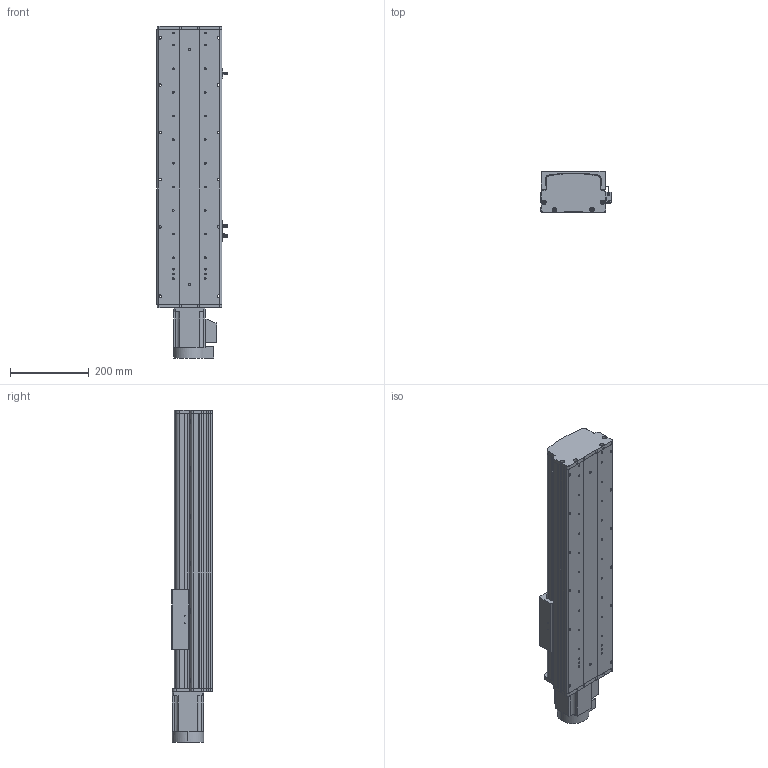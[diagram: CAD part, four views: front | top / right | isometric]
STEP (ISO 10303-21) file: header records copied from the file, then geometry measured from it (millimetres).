
FILE_DESCRIPTION (( 'STEP AP214' ), '1' );
FILE_NAME ('KSD165S-S400-MN-CM .STEP', '2017-08-07T08:07:46', ( '微软用户' ), ( '微软中国' ), 'SwSTEP 2.0', 'SolidWorks 2014', '' );
FILE_SCHEMA (( 'AUTOMOTIVE_DESIGN' ));
Length unit declared in the file: millimetre
Products named in the file (12): KSD165耀郪-佪裝-滅袉菜-3 -; C44ㄜ1912WP; 覜茼え68遵圉猾敕; U倰嫖萇假蚾璃; U倰嫖萇EEㄜSX672; KSD165耀郪-綴傷啣1; KSD165模组-丝杆滑动座-最新版; KSD165S-S400-MN-CM ; KSD165模组-防尘盖1-400行程-直连不带电机座; KSD165模组底板-400行程-直连不带电机座; 拸秶雄ん750W侜督萇儂; KSD165模组-直连不带电机座电机连接板
Assembly tree (15 placements, depth 2):
  KSD165S-S400-MN-CM 
    KSD165模组-丝杆滑动座-最新版
    KSD165耀郪-綴傷啣1
    U倰嫖萇EEㄜSX672  x3
    U倰嫖萇假蚾璃  x3
    覜茼え68遵圉猾敕
    C44ㄜ1912WP
    KSD165耀郪-佪裝-滅袉菜-3 -
    KSD165模组-直连不带电机座电机连接板
    拸秶雄ん750W侜督萇儂
    KSD165模组底板-400行程-直连不带电机座
    KSD165模组-防尘盖1-400行程-直连不带电机座
Bounding box: 178.7 x 104 x 843 mm (x, y, z)
Volume: 5160523.6 mm3; surface area: 1112063.1 mm2
Topology: 16 solids, 16 shells, 1169 faces, 3262 edges, 2113 vertices
Faces by surface type: cylinder 603, plane 489, cone 77
Entity records: 36447 total; most frequent: CARTESIAN_POINT 8175, DIRECTION 5423, ORIENTED_EDGE 5204, EDGE_CURVE 2602, AXIS2_PLACEMENT_3D 2025, VERTEX_POINT 1705, VECTOR 1373, LINE 1373
